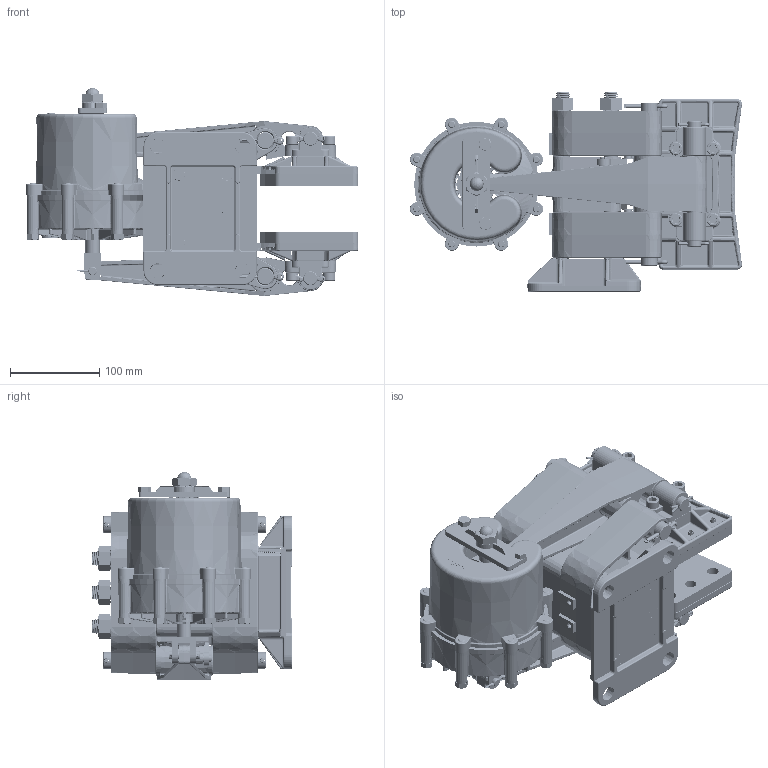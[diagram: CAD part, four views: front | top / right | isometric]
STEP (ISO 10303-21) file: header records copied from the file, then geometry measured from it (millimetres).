
FILE_DESCRIPTION (( 'STEP AP214' ), '1' );
FILE_NAME ('5021-SA-RH.STEP', '2016-06-02T17:31:12', ( 'User' ), ( 'Microsoft' ), 'SwSTEP 2.0', 'SolidWorks 2015', '' );
FILE_SCHEMA (( 'AUTOMOTIVE_DESIGN' ));
Length unit declared in the file: inch
Products named in the file (1): 5021-SA-RH
Bounding box: 372.26 x 224.03 x 233.35 mm (x, y, z)
Surface area: 748286.1 mm2 (no closed solid volume)
Topology: 0 solids, 142 shells, 4015 faces, 12398 edges, 8081 vertices
Faces by surface type: cylinder 1299, plane 929, bspline 723, cone 573, torus 464, sphere 27
Entity records: 241572 total; most frequent: CARTESIAN_POINT 91170, ORIENTED_EDGE 19992, DIRECTION 19117, EDGE_CURVE 12310, VERTEX_POINT 8081, AXIS2_PLACEMENT_3D 7630, EDGE_LOOP 4340, CIRCLE 4337
